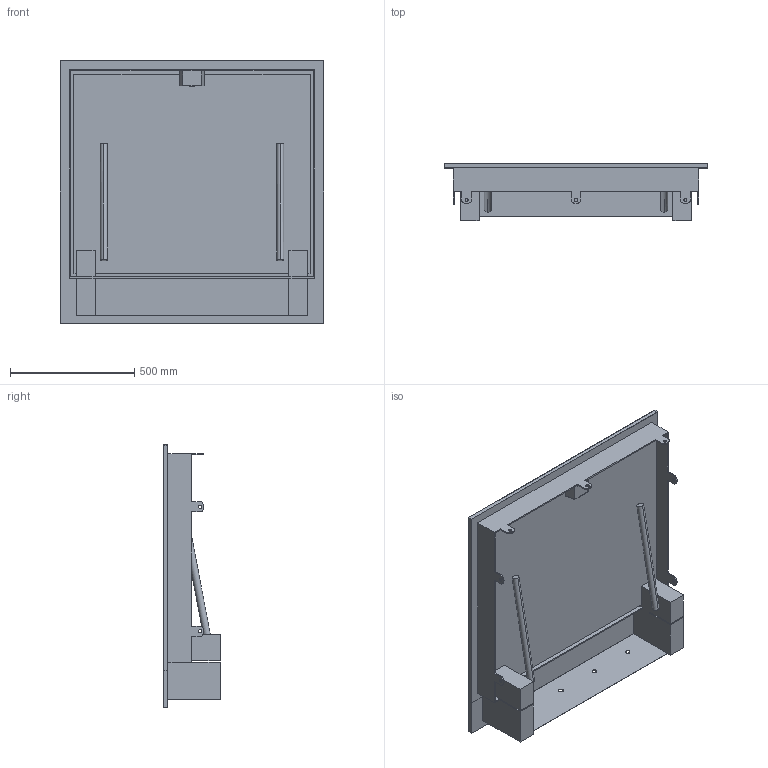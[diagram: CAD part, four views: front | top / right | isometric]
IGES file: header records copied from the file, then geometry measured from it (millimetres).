
Start section:  PTC IGES file: 51497977.igs
Global section: file name: 51497977.igs; native system: Creo Parametric by PTC Inc.; preprocessor: 2019224; author: slc; organization: Unknown; date: 20200617.095521; units: millimetre
Bounding box: 1060 x 228 x 1056 mm (x, y, z)
Surface area: 4164652.6 mm2 (no closed solid volume)
Topology: 0 solids, 0 shells, 136 faces, 756 edges, 756 vertices
Faces by surface type: bspline 97, revolution 39
